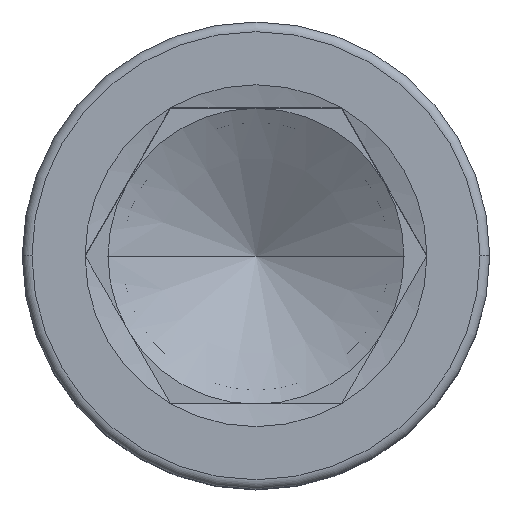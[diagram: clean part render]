
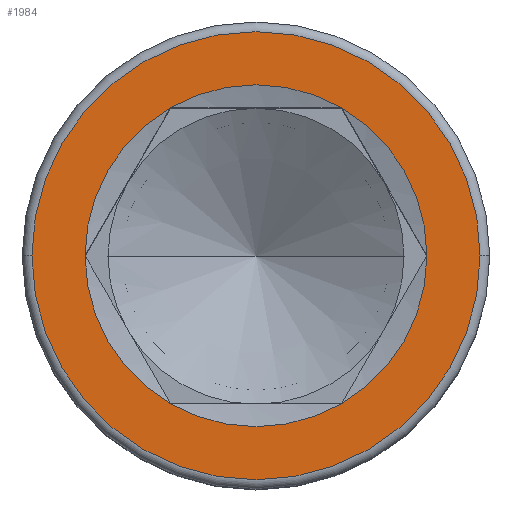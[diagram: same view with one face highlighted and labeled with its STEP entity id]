
A CAD part, top view. The second image highlights one B-rep face of the part: STEP entity #1984.
In plain terms, the highlighted planar face has unit normal (0, 0, 1).
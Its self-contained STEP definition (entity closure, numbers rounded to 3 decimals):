
#71 = EDGE_LOOP ( 'NONE', ( #1524, #172, #1276, #806, #709, #1290 ) ) ;
#83 = EDGE_CURVE ( 'NONE', #1189, #455, #1704, .T. ) ;
#97 = ORIENTED_EDGE ( 'NONE', *, *, #164, .T. ) ;
#104 = DIRECTION ( 'NONE',  ( 0., 0., 1. ) ) ;
#138 = DIRECTION ( 'NONE',  ( 1., 0., 0. ) ) ;
#164 = EDGE_CURVE ( 'NONE', #1361, #903, #236, .T. ) ;
#172 = ORIENTED_EDGE ( 'NONE', *, *, #1202, .F. ) ;
#215 = CIRCLE ( 'NONE', #1219, 10.97 ) ;
#236 = CIRCLE ( 'NONE', #1380, 14.38 ) ;
#253 = DIRECTION ( 'NONE',  ( 0., 0., 1. ) ) ;
#339 = CARTESIAN_POINT ( 'NONE',  ( 0., 0., 20. ) ) ;
#354 = DIRECTION ( 'NONE',  ( 1., 0., 0. ) ) ;
#409 = CARTESIAN_POINT ( 'NONE',  ( 0., 0., 20. ) ) ;
#441 = DIRECTION ( 'NONE',  ( 1., 0., 0. ) ) ;
#455 = VERTEX_POINT ( 'NONE', #744 ) ;
#458 = EDGE_CURVE ( 'NONE', #565, #1139, #1446, .T. ) ;
#476 = CARTESIAN_POINT ( 'NONE',  ( 10.97, 0., 20. ) ) ;
#539 = DIRECTION ( 'NONE',  ( 0., 0., 1. ) ) ;
#565 = VERTEX_POINT ( 'NONE', #1636 ) ;
#592 = DIRECTION ( 'NONE',  ( 1., 0., 0. ) ) ;
#633 = FACE_BOUND ( 'NONE', #71, .T. ) ;
#635 = AXIS2_PLACEMENT_3D ( 'NONE', #409, #1327, #441 ) ;
#709 = ORIENTED_EDGE ( 'NONE', *, *, #1268, .F. ) ;
#744 = CARTESIAN_POINT ( 'NONE',  ( 5.485, 9.5, 20. ) ) ;
#773 = CIRCLE ( 'NONE', #1903, 10.97 ) ;
#806 = ORIENTED_EDGE ( 'NONE', *, *, #999, .F. ) ;
#871 = DIRECTION ( 'NONE',  ( 1., 0., 0. ) ) ;
#903 = VERTEX_POINT ( 'NONE', #1982 ) ;
#922 = CARTESIAN_POINT ( 'NONE',  ( 0., 0., 20. ) ) ;
#940 = CARTESIAN_POINT ( 'NONE',  ( 0., 0., 20. ) ) ;
#959 = DIRECTION ( 'NONE',  ( 0., 0., 1. ) ) ;
#976 = DIRECTION ( 'NONE',  ( 1., 0., 0. ) ) ;
#999 = EDGE_CURVE ( 'NONE', #1697, #565, #1217, .T. ) ;
#1026 = AXIS2_PLACEMENT_3D ( 'NONE', #922, #1690, #592 ) ;
#1027 = VERTEX_POINT ( 'NONE', #1348 ) ;
#1075 = EDGE_CURVE ( 'NONE', #903, #1361, #1614, .T. ) ;
#1079 = DIRECTION ( 'NONE',  ( 0., 0., 1. ) ) ;
#1109 = ORIENTED_EDGE ( 'NONE', *, *, #1075, .T. ) ;
#1139 = VERTEX_POINT ( 'NONE', #1257 ) ;
#1189 = VERTEX_POINT ( 'NONE', #476 ) ;
#1202 = EDGE_CURVE ( 'NONE', #1139, #1189, #215, .T. ) ;
#1203 = DIRECTION ( 'NONE',  ( 0., 0., 1. ) ) ;
#1217 = CIRCLE ( 'NONE', #1287, 10.97 ) ;
#1219 = AXIS2_PLACEMENT_3D ( 'NONE', #940, #1566, #354 ) ;
#1252 = AXIS2_PLACEMENT_3D ( 'NONE', #1705, #1079, #1575 ) ;
#1257 = CARTESIAN_POINT ( 'NONE',  ( 5.485, -9.5, 20. ) ) ;
#1268 = EDGE_CURVE ( 'NONE', #1027, #1697, #1387, .T. ) ;
#1276 = ORIENTED_EDGE ( 'NONE', *, *, #458, .F. ) ;
#1287 = AXIS2_PLACEMENT_3D ( 'NONE', #1499, #104, #1952 ) ;
#1290 = ORIENTED_EDGE ( 'NONE', *, *, #1751, .F. ) ;
#1327 = DIRECTION ( 'NONE',  ( 0., 0., 1. ) ) ;
#1348 = CARTESIAN_POINT ( 'NONE',  ( -5.485, 9.5, 20. ) ) ;
#1361 = VERTEX_POINT ( 'NONE', #1955 ) ;
#1380 = AXIS2_PLACEMENT_3D ( 'NONE', #1658, #253, #871 ) ;
#1387 = CIRCLE ( 'NONE', #1901, 10.97 ) ;
#1416 = AXIS2_PLACEMENT_3D ( 'NONE', #1504, #539, #1665 ) ;
#1446 = CIRCLE ( 'NONE', #1416, 10.97 ) ;
#1499 = CARTESIAN_POINT ( 'NONE',  ( 0., 0., 20. ) ) ;
#1504 = CARTESIAN_POINT ( 'NONE',  ( 0., 0., 20. ) ) ;
#1524 = ORIENTED_EDGE ( 'NONE', *, *, #83, .F. ) ;
#1536 = PLANE ( 'NONE',  #1026 ) ;
#1565 = EDGE_LOOP ( 'NONE', ( #97, #1109 ) ) ;
#1566 = DIRECTION ( 'NONE',  ( 0., 0., 1. ) ) ;
#1575 = DIRECTION ( 'NONE',  ( 1., 0., 0. ) ) ;
#1614 = CIRCLE ( 'NONE', #1252, 14.38 ) ;
#1636 = CARTESIAN_POINT ( 'NONE',  ( -5.485, -9.5, 20. ) ) ;
#1658 = CARTESIAN_POINT ( 'NONE',  ( 0., 0., 20. ) ) ;
#1665 = DIRECTION ( 'NONE',  ( 1., 0., 0. ) ) ;
#1673 = CARTESIAN_POINT ( 'NONE',  ( 0., 0., 20. ) ) ;
#1690 = DIRECTION ( 'NONE',  ( 0., 0., 1. ) ) ;
#1697 = VERTEX_POINT ( 'NONE', #1882 ) ;
#1704 = CIRCLE ( 'NONE', #635, 10.97 ) ;
#1705 = CARTESIAN_POINT ( 'NONE',  ( 0., 0., 20. ) ) ;
#1751 = EDGE_CURVE ( 'NONE', #455, #1027, #773, .T. ) ;
#1853 = FACE_OUTER_BOUND ( 'NONE', #1565, .T. ) ;
#1882 = CARTESIAN_POINT ( 'NONE',  ( -10.97, 0., 20. ) ) ;
#1901 = AXIS2_PLACEMENT_3D ( 'NONE', #1673, #1203, #138 ) ;
#1903 = AXIS2_PLACEMENT_3D ( 'NONE', #339, #959, #976 ) ;
#1952 = DIRECTION ( 'NONE',  ( 1., 0., 0. ) ) ;
#1955 = CARTESIAN_POINT ( 'NONE',  ( 14.38, 0., 20. ) ) ;
#1982 = CARTESIAN_POINT ( 'NONE',  ( -14.38, 0., 20. ) ) ;
#1984 = ADVANCED_FACE ( 'NONE', ( #1853, #633 ), #1536, .T. ) ;
